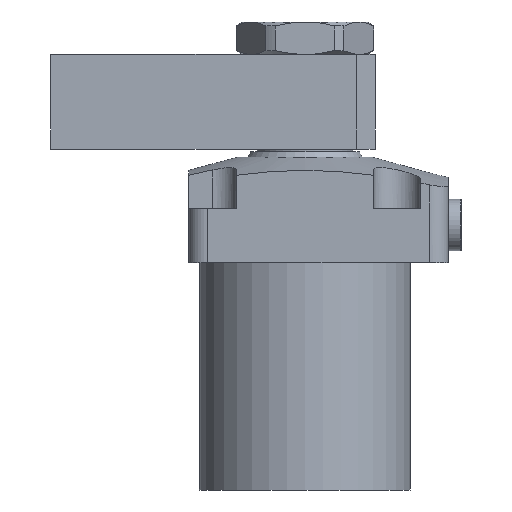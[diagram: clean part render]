
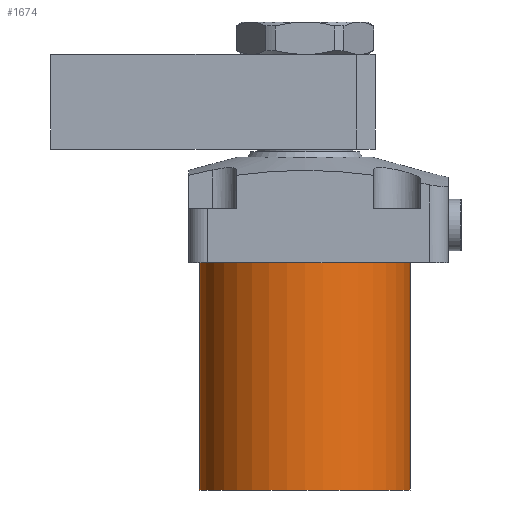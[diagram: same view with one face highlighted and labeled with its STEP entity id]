
A CAD part, front view. The second image highlights one B-rep face of the part: STEP entity #1674.
In plain terms, the highlighted cylindrical face has radius 39 mm (diameter 78 mm), a full revolution.
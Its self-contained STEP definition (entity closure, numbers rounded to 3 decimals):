
#1559=CYLINDRICAL_SURFACE('',#3914,39.);
#1674=ADVANCED_FACE('',(#1925,#1926),#1559,.T.);
#1925=FACE_BOUND('',#2120,.T.);
#1926=FACE_BOUND('',#2121,.T.);
#2120=EDGE_LOOP('',(#2568));
#2121=EDGE_LOOP('',(#2569));
#2568=ORIENTED_EDGE('',*,*,#3289,.F.);
#2569=ORIENTED_EDGE('',*,*,#3316,.F.);
#3008=VERTEX_POINT('',#5238);
#3035=VERTEX_POINT('',#5442);
#3289=EDGE_CURVE('',#3008,#3008,#3525,.T.);
#3316=EDGE_CURVE('',#3035,#3035,#3531,.T.);
#3525=CIRCLE('',#3902,39.);
#3531=CIRCLE('',#3913,39.);
#3902=AXIS2_PLACEMENT_3D('',#5237,#4389,#4390);
#3913=AXIS2_PLACEMENT_3D('',#5441,#4411,#4412);
#3914=AXIS2_PLACEMENT_3D('',#5443,#4413,#4414);
#4389=DIRECTION('',(0.,0.,-1.));
#4390=DIRECTION('',(0.,-1.,0.));
#4411=DIRECTION('',(0.,0.,1.));
#4412=DIRECTION('',(0.,-1.,0.));
#4413=DIRECTION('',(0.,0.,-1.));
#4414=DIRECTION('',(0.,1.,0.));
#5237=CARTESIAN_POINT('',(0.,62.5,-62.5));
#5238=CARTESIAN_POINT('',(0.,23.5,-62.5));
#5441=CARTESIAN_POINT('',(0.,62.5,21.5));
#5442=CARTESIAN_POINT('',(0.,23.5,21.5));
#5443=CARTESIAN_POINT('',(0.,62.5,21.5));
